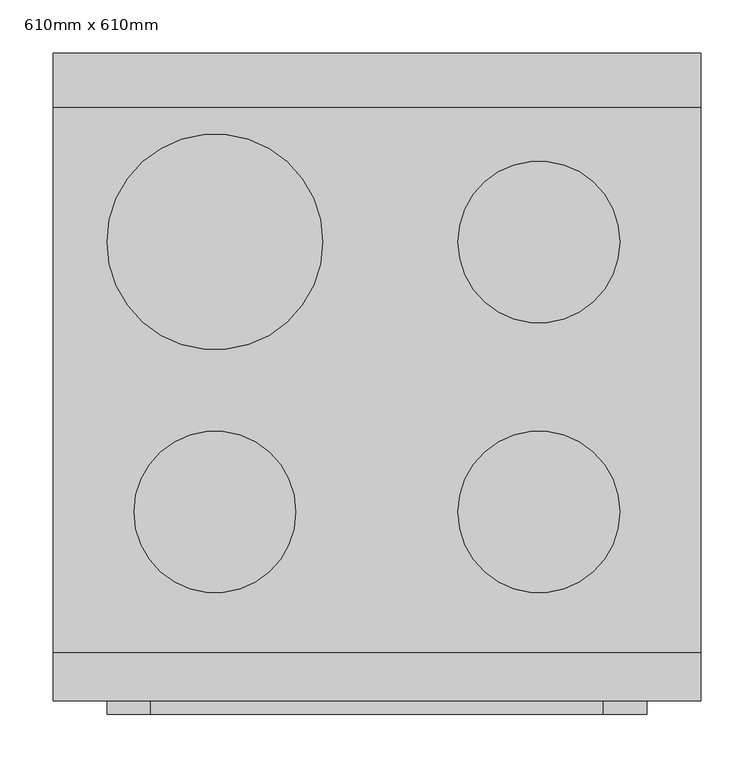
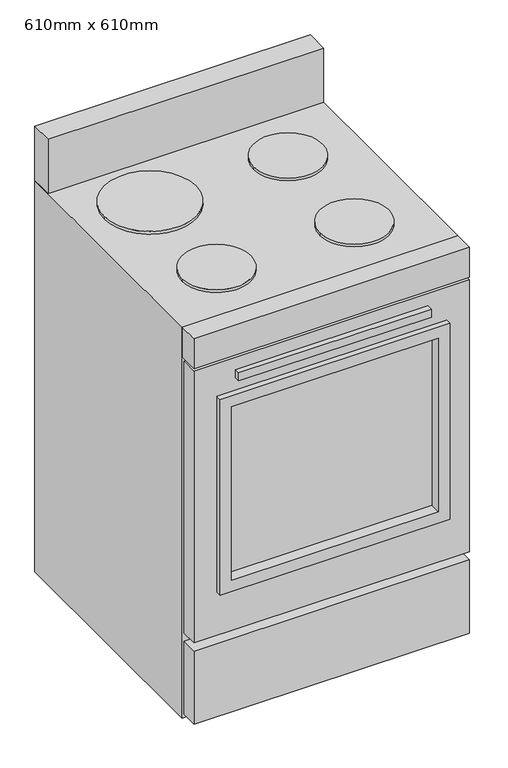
"""IFC4 building model written with IfcOpenShell, lengths in millimetres: proxy geometry, Cuisinière : 610mm x 610mm."""

from ifc_helpers import new_model, si_unit, point, frame, frame_2d, origin, place, context, project, spatial, polyline, circle_curve, trimmed, segment, composite_curve, outline, extrude, source, transform, mapped, element, save


def proxy_610mm_x_610mm_88bdc8d1(model_context):
    return source(origin(), model_context, "Body", "SweptSolid", [
        extrude(outline(polyline([(517.925, -12.7), (91.687309, -12.7), (91.687309, 0.0), (517.925, 0.0), (517.925, -12.7)])), frame((0.0, 0.0, 791.2768639), z_axis=(0.0, 0.0, 1.0), x_axis=(1.0, 0.0, 0.0)), (0.0, 0.0, 1.0), 19.05),
        extrude(outline(polyline([(533.8, 12.7), (76.2, 12.7), (76.2, 19.05), (533.8, 19.05), (533.8, 12.7)])), frame((0.0, 0.0, 330.2), z_axis=(0.0, 0.0, 1.0), x_axis=(1.0, 0.0, 0.0)), (0.0, 0.0, 1.0), 406.4),
        extrude(outline(polyline([(610.0, 0.0), (0.0, 0.0), (0.0, 45.0), (610.0, 45.0), (610.0, 0.0)])), frame((0.0, 0.0, 844.7720355), z_axis=(0.0, 0.0, 1.0), x_axis=(1.0, 0.0, 0.0)), (0.0, 0.0, 1.0), 69.6279645),
        extrude(outline(polyline([(762.0, 559.2), (762.0, 50.8), (304.8, 50.8), (304.8, 559.2), (762.0, 559.2)]), holes=[polyline([(736.6, 533.8), (330.2, 533.8), (330.2, 76.2), (736.6, 76.2), (736.6, 533.8)])]), frame((0.0, -12.7, 0.0), z_axis=(0.0, 1.0, 0.0), x_axis=(0.0, 0.0, 1.0)), (0.0, 0.0, 1.0), 38.1),
        extrude(outline(composite_curve([segment(trimmed(circle_curve(frame_2d((152.4, 432.2)), 101.6), [point((50.8, 432.2))], [point((254.0, 432.2))], False, "CARTESIAN"), True, "CONTINUOUS"), segment(trimmed(circle_curve(frame_2d((152.4, 432.2)), 101.6), [point((254.0, 432.2))], [point((50.8, 432.2))], False, "CARTESIAN"), True, "CONTINUOUS")], self_intersect=False)), frame((0.0, 0.0, 914.4), z_axis=(0.0, 0.0, 1.0), x_axis=(1.0, 0.0, 0.0)), (0.0, 0.0, 1.0), 6.35),
        extrude(outline(composite_curve([segment(trimmed(circle_curve(frame_2d((457.6, 432.2)), 76.2), [point((381.4, 432.2))], [point((533.8, 432.2))], False, "CARTESIAN"), True, "CONTINUOUS"), segment(trimmed(circle_curve(frame_2d((457.6, 432.2)), 76.2), [point((533.8, 432.2))], [point((381.4, 432.2))], False, "CARTESIAN"), True, "CONTINUOUS")], self_intersect=False)), frame((0.0, 0.0, 914.4), z_axis=(0.0, 0.0, 1.0), x_axis=(1.0, 0.0, 0.0)), (0.0, 0.0, 1.0), 6.35),
        extrude(outline(composite_curve([segment(trimmed(circle_curve(frame_2d((457.6, 177.8)), 76.2), [point((381.4, 177.8))], [point((533.8, 177.8))], False, "CARTESIAN"), True, "CONTINUOUS"), segment(trimmed(circle_curve(frame_2d((457.6, 177.8)), 76.2), [point((533.8, 177.8))], [point((381.4, 177.8))], False, "CARTESIAN"), True, "CONTINUOUS")], self_intersect=False)), frame((0.0, 0.0, 914.4), z_axis=(0.0, 0.0, 1.0), x_axis=(1.0, 0.0, 0.0)), (0.0, 0.0, 1.0), 6.35),
        extrude(outline(composite_curve([segment(trimmed(circle_curve(frame_2d((152.4, 177.8)), 76.2), [point((76.2, 177.8))], [point((228.6, 177.8))], False, "CARTESIAN"), True, "CONTINUOUS"), segment(trimmed(circle_curve(frame_2d((152.4, 177.8)), 76.2), [point((228.6, 177.8))], [point((76.2, 177.8))], False, "CARTESIAN"), True, "CONTINUOUS")], self_intersect=False)), frame((0.0, 0.0, 914.4), z_axis=(0.0, 0.0, 1.0), x_axis=(1.0, 0.0, 0.0)), (0.0, 0.0, 1.0), 6.35),
        extrude(outline(polyline([(25.4, 610.0), (584.6, 610.0), (584.6, 584.6), (25.4, 584.6), (25.4, 610.0)])), frame((0.0, 0.0, 254.0), z_axis=(0.0, 0.0, 1.0), x_axis=(1.0, 0.0, 0.0)), (0.0, 0.0, 1.0), 635.2220355),
        extrude(outline(polyline([(838.4220355, 610.0), (838.4220355, 0.0), (203.2, 0.0), (203.2, 610.0), (838.4220355, 610.0)]), holes=[polyline([(762.0, 559.2), (304.8, 559.2), (304.8, 50.8), (762.0, 50.8), (762.0, 559.2)])]), frame((0.0, 0.0, 0.0), z_axis=(0.0, 1.0, 0.0), x_axis=(0.0, 0.0, 1.0)), (0.0, 0.0, 1.0), 38.1),
        extrude(outline(polyline([(610.0, 0.0), (0.0, 0.0), (0.0, 38.1), (610.0, 38.1), (610.0, 0.0)])), frame((0.0, 0.0, 12.7), z_axis=(0.0, 0.0, 1.0), x_axis=(1.0, 0.0, 0.0)), (0.0, 0.0, 1.0), 171.45),
        extrude(outline(polyline([(914.4, 610.0), (914.4, 0.0), (0.0, 0.0), (0.0, 610.0), (914.4, 610.0)]), holes=[polyline([(889.2220355, 584.6), (254.0, 584.6), (254.0, 25.4), (889.2220355, 25.4), (889.2220355, 584.6)])]), frame((0.0, 45.0, 0.0), z_axis=(0.0, 1.0, 0.0), x_axis=(0.0, 0.0, 1.0)), (0.0, 0.0, 1.0), 565.0),
        extrude(outline(polyline([(610.0, 610.0), (610.0, 559.2), (0.0, 559.2), (0.0, 610.0), (610.0, 610.0)])), frame((0.0, 0.0, 914.4), z_axis=(0.0, 0.0, 1.0), x_axis=(1.0, 0.0, 0.0)), (0.0, 0.0, 1.0), 127.0),
    ])


if __name__ == "__main__":
    model = new_model("IFC4")
    model_context = context("Model", 3, world=origin())
    ifc_project = project(units=[si_unit("LENGTHUNIT", "METRE", prefix="MILLI")], contexts=[model_context])
    site = spatial("IfcSite", under=ifc_project)
    building = spatial("IfcBuilding", under=site)
    placement = place(None, origin())
    proxy_610mm_x_610mm_shape = proxy_610mm_x_610mm_88bdc8d1(model_context)
    element("IfcBuildingElementProxy", 1, Name="Cuisinière : 610mm x 610mm", ObjectType="Cuisinière : 610mm x 610mm", at=placement, inside=building, context=model_context, shape_type="MappedRepresentation", body=[
        mapped(proxy_610mm_x_610mm_shape, transform((0.0, 0.0, 0.0), x_axis=(1.0, 0.0, 0.0), y_axis=(0.0, 1.0, 0.0), z_axis=(0.0, 0.0, 1.0))),
    ])
    save(model, "model.ifc")
